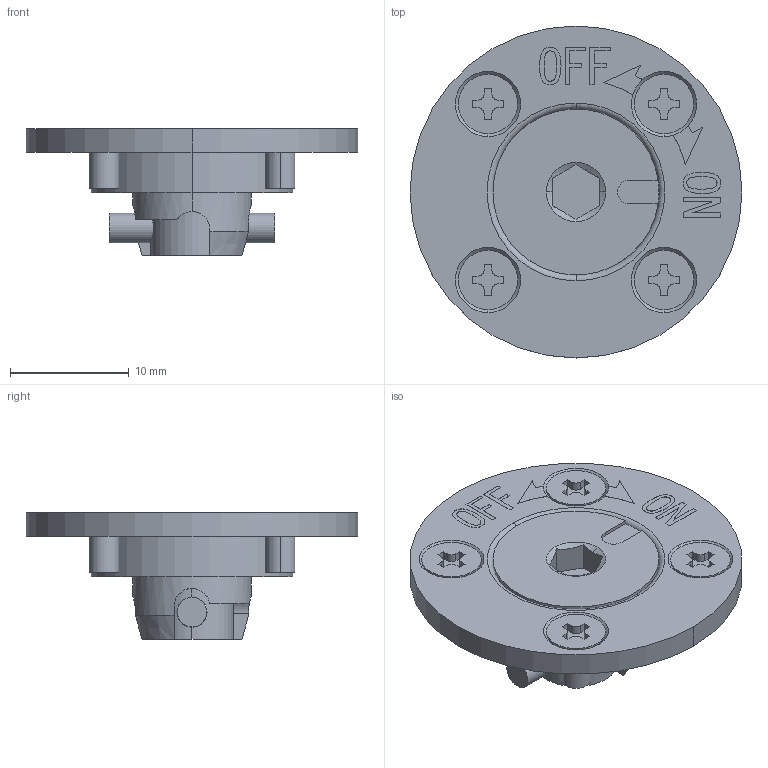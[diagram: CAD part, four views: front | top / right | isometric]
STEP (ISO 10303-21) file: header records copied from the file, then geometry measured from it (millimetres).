
FILE_DESCRIPTION (( 'STEP AP203' ), '1' );
FILE_NAME ('QCFCH0628-SUS.step', '2025-01-17T08:02:48', ( '' ), ( '' ), 'SwSTEP 2.0', 'SolidWorks 2023', '' );
FILE_SCHEMA (( 'CONFIG_CONTROL_DESIGN' ));
Length unit declared in the file: millimetre
Products named in the file (3): QCFCH0628-SUS_01; QCFCH0628-SUS_02; QCFCH0628-SUS
Assembly tree (2 placements, depth 2):
  QCFCH0628-SUS
    QCFCH0628-SUS_01
    QCFCH0628-SUS_02
Bounding box: 28 x 28 x 10.7 mm (x, y, z)
Volume: 2030 mm3; surface area: 2796.7 mm2
Topology: 3 solids, 3 shells, 249 faces, 649 edges, 430 vertices
Faces by surface type: plane 135, cylinder 68, bspline 32, cone 12, torus 2
Entity records: 9754 total; most frequent: CARTESIAN_POINT 3463, ORIENTED_EDGE 1298, DIRECTION 1141, EDGE_CURVE 649, VERTEX_POINT 430, VECTOR 397, LINE 397, AXIS2_PLACEMENT_3D 372
